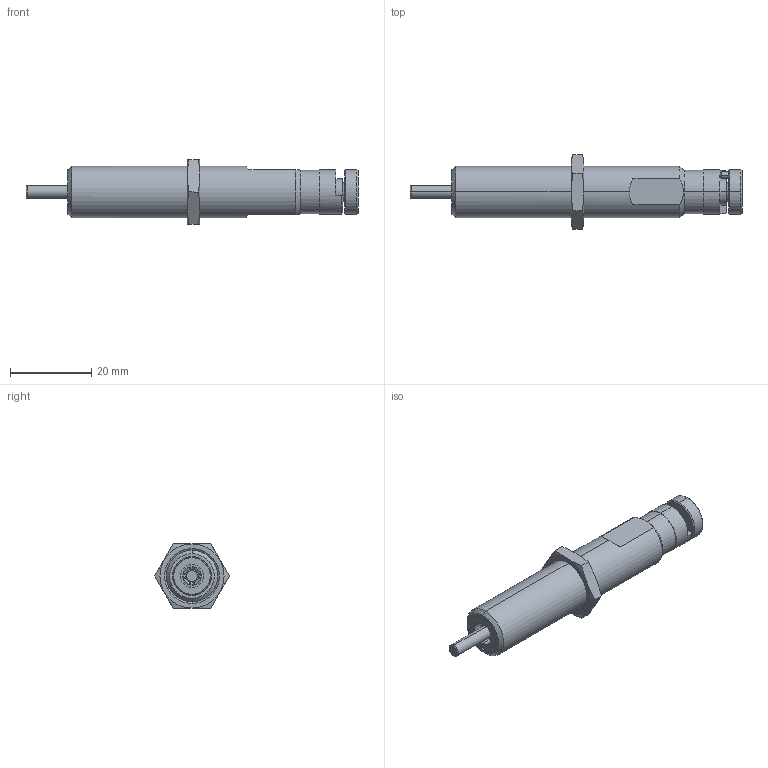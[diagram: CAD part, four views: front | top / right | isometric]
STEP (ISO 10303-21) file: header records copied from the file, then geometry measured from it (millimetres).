
FILE_DESCRIPTION (( 'STEP AP214' ), '1' );
FILE_NAME ('ECO (LR)OEM .25.STEP', '2015-04-16T12:28:14', ( 'ITT' ), ( 'ITT' ), 'SwSTEP 2.0', 'SolidWorks 2011', '' );
FILE_SCHEMA (( 'AUTOMOTIVE_DESIGN' ));
Length unit declared in the file: inch
Products named in the file (1): ECO (LR)OEM .25
Bounding box: 81.52 x 18.33 x 15.88 mm (x, y, z)
Surface area: 4041.6 mm2 (no closed solid volume)
Topology: 0 solids, 12 shells, 87 faces, 230 edges, 154 vertices
Faces by surface type: plane 34, cone 25, cylinder 20, torus 8
Entity records: 3984 total; most frequent: CARTESIAN_POINT 658, DIRECTION 481, ORIENTED_EDGE 400, EDGE_CURVE 230, AXIS2_PLACEMENT_3D 193, VERTEX_POINT 154, CIRCLE 105, EDGE_LOOP 100
